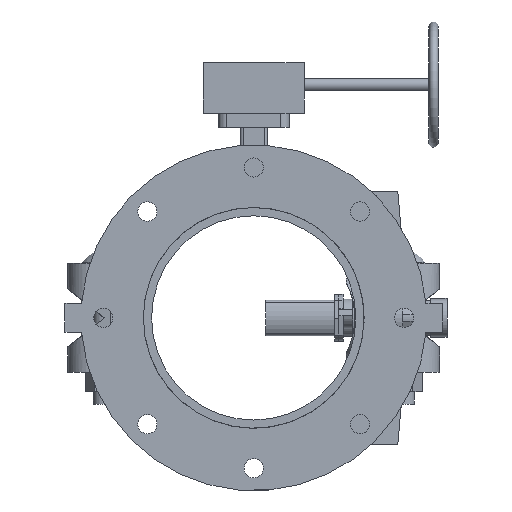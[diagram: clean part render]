
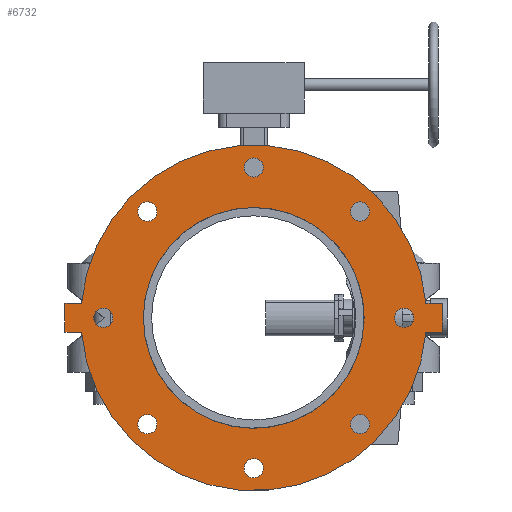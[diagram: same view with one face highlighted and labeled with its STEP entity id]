
A CAD part, front view. The second image highlights one B-rep face of the part: STEP entity #6732.
In plain terms, the highlighted planar face has unit normal (0, -1, 0) as drawn and (0, 0, -1) by its records, which use the part's own axes.
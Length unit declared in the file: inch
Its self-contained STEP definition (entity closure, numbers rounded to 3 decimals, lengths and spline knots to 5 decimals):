
#174=FACE_BOUND('',#852,.T.);
#175=FACE_BOUND('',#853,.T.);
#176=FACE_BOUND('',#854,.T.);
#177=FACE_BOUND('',#855,.T.);
#178=FACE_BOUND('',#856,.T.);
#179=FACE_BOUND('',#857,.T.);
#180=FACE_BOUND('',#858,.T.);
#181=FACE_BOUND('',#859,.T.);
#182=FACE_BOUND('',#860,.T.);
#255=PLANE('',#7294);
#484=FACE_OUTER_BOUND('',#851,.T.);
#851=EDGE_LOOP('',(#4329,#4330,#4331,#4332,#4333,#4334,#4335,#4336));
#852=EDGE_LOOP('',(#4337));
#853=EDGE_LOOP('',(#4338));
#854=EDGE_LOOP('',(#4339));
#855=EDGE_LOOP('',(#4340));
#856=EDGE_LOOP('',(#4341));
#857=EDGE_LOOP('',(#4342));
#858=EDGE_LOOP('',(#4343));
#859=EDGE_LOOP('',(#4344));
#860=EDGE_LOOP('',(#4345,#4346));
#1299=LINE('',#10170,#1809);
#1300=LINE('',#10172,#1810);
#1301=LINE('',#10174,#1811);
#1302=LINE('',#10178,#1812);
#1303=LINE('',#10180,#1813);
#1304=LINE('',#10181,#1814);
#1809=VECTOR('',#8111,0.3937);
#1810=VECTOR('',#8112,0.3937);
#1811=VECTOR('',#8113,0.3937);
#1812=VECTOR('',#8116,0.3937);
#1813=VECTOR('',#8117,0.3937);
#1814=VECTOR('',#8118,0.3937);
#2312=CIRCLE('',#7272,0.375);
#2314=CIRCLE('',#7275,0.375);
#2316=CIRCLE('',#7278,0.375);
#2318=CIRCLE('',#7281,0.375);
#2320=CIRCLE('',#7284,0.375);
#2322=CIRCLE('',#7287,0.375);
#2324=CIRCLE('',#7290,0.375);
#2326=CIRCLE('',#7293,0.375);
#2327=CIRCLE('',#7295,6.75);
#2328=CIRCLE('',#7296,6.75);
#2329=CIRCLE('',#7297,4.3125);
#2330=CIRCLE('',#7298,4.3125);
#2684=VERTEX_POINT('',#10120);
#2686=VERTEX_POINT('',#10126);
#2688=VERTEX_POINT('',#10132);
#2690=VERTEX_POINT('',#10138);
#2692=VERTEX_POINT('',#10144);
#2694=VERTEX_POINT('',#10150);
#2696=VERTEX_POINT('',#10156);
#2698=VERTEX_POINT('',#10162);
#2699=VERTEX_POINT('',#10166);
#2700=VERTEX_POINT('',#10167);
#2701=VERTEX_POINT('',#10169);
#2702=VERTEX_POINT('',#10171);
#2703=VERTEX_POINT('',#10173);
#2704=VERTEX_POINT('',#10175);
#2705=VERTEX_POINT('',#10177);
#2706=VERTEX_POINT('',#10179);
#2707=VERTEX_POINT('',#10182);
#2708=VERTEX_POINT('',#10183);
#3333=EDGE_CURVE('',#2684,#2684,#2312,.T.);
#3336=EDGE_CURVE('',#2686,#2686,#2314,.T.);
#3339=EDGE_CURVE('',#2688,#2688,#2316,.T.);
#3342=EDGE_CURVE('',#2690,#2690,#2318,.T.);
#3345=EDGE_CURVE('',#2692,#2692,#2320,.T.);
#3348=EDGE_CURVE('',#2694,#2694,#2322,.T.);
#3351=EDGE_CURVE('',#2696,#2696,#2324,.T.);
#3354=EDGE_CURVE('',#2698,#2698,#2326,.T.);
#3355=EDGE_CURVE('',#2699,#2700,#2327,.T.);
#3356=EDGE_CURVE('',#2700,#2701,#1299,.T.);
#3357=EDGE_CURVE('',#2701,#2702,#1300,.T.);
#3358=EDGE_CURVE('',#2702,#2703,#1301,.T.);
#3359=EDGE_CURVE('',#2703,#2704,#2328,.T.);
#3360=EDGE_CURVE('',#2704,#2705,#1302,.T.);
#3361=EDGE_CURVE('',#2705,#2706,#1303,.T.);
#3362=EDGE_CURVE('',#2706,#2699,#1304,.T.);
#3363=EDGE_CURVE('',#2707,#2708,#2329,.T.);
#3364=EDGE_CURVE('',#2708,#2707,#2330,.T.);
#4329=ORIENTED_EDGE('',*,*,#3355,.T.);
#4330=ORIENTED_EDGE('',*,*,#3356,.T.);
#4331=ORIENTED_EDGE('',*,*,#3357,.T.);
#4332=ORIENTED_EDGE('',*,*,#3358,.T.);
#4333=ORIENTED_EDGE('',*,*,#3359,.T.);
#4334=ORIENTED_EDGE('',*,*,#3360,.T.);
#4335=ORIENTED_EDGE('',*,*,#3361,.T.);
#4336=ORIENTED_EDGE('',*,*,#3362,.T.);
#4337=ORIENTED_EDGE('',*,*,#3333,.T.);
#4338=ORIENTED_EDGE('',*,*,#3336,.T.);
#4339=ORIENTED_EDGE('',*,*,#3339,.T.);
#4340=ORIENTED_EDGE('',*,*,#3342,.T.);
#4341=ORIENTED_EDGE('',*,*,#3345,.T.);
#4342=ORIENTED_EDGE('',*,*,#3348,.T.);
#4343=ORIENTED_EDGE('',*,*,#3351,.T.);
#4344=ORIENTED_EDGE('',*,*,#3354,.T.);
#4345=ORIENTED_EDGE('',*,*,#3363,.T.);
#4346=ORIENTED_EDGE('',*,*,#3364,.T.);
#6732=ADVANCED_FACE('',(#484,#174,#175,#176,#177,#178,#179,#180,#181,#182),
#255,.T.);
#7272=AXIS2_PLACEMENT_3D('',#10122,#8056,#8057);
#7275=AXIS2_PLACEMENT_3D('',#10128,#8063,#8064);
#7278=AXIS2_PLACEMENT_3D('',#10134,#8070,#8071);
#7281=AXIS2_PLACEMENT_3D('',#10140,#8077,#8078);
#7284=AXIS2_PLACEMENT_3D('',#10146,#8084,#8085);
#7287=AXIS2_PLACEMENT_3D('',#10152,#8091,#8092);
#7290=AXIS2_PLACEMENT_3D('',#10158,#8098,#8099);
#7293=AXIS2_PLACEMENT_3D('',#10164,#8105,#8106);
#7294=AXIS2_PLACEMENT_3D('',#10165,#8107,#8108);
#7295=AXIS2_PLACEMENT_3D('',#10168,#8109,#8110);
#7296=AXIS2_PLACEMENT_3D('',#10176,#8114,#8115);
#7297=AXIS2_PLACEMENT_3D('',#10184,#8119,#8120);
#7298=AXIS2_PLACEMENT_3D('',#10185,#8121,#8122);
#8056=DIRECTION('center_axis',(0.,0.,1.));
#8057=DIRECTION('ref_axis',(-0.707,0.707,0.));
#8063=DIRECTION('center_axis',(0.,0.,1.));
#8064=DIRECTION('ref_axis',(0.,1.,0.));
#8070=DIRECTION('center_axis',(0.,0.,1.));
#8071=DIRECTION('ref_axis',(0.707,0.707,0.));
#8077=DIRECTION('center_axis',(0.,0.,1.));
#8078=DIRECTION('ref_axis',(1.,0.,0.));
#8084=DIRECTION('center_axis',(0.,0.,1.));
#8085=DIRECTION('ref_axis',(0.707,-0.707,0.));
#8091=DIRECTION('center_axis',(0.,0.,1.));
#8092=DIRECTION('ref_axis',(0.,-1.,0.));
#8098=DIRECTION('center_axis',(0.,0.,1.));
#8099=DIRECTION('ref_axis',(-0.707,-0.707,0.));
#8105=DIRECTION('center_axis',(0.,0.,1.));
#8106=DIRECTION('ref_axis',(-1.,0.,0.));
#8107=DIRECTION('center_axis',(0.,0.,-1.));
#8108=DIRECTION('ref_axis',(-1.,0.,0.));
#8109=DIRECTION('center_axis',(0.,0.,-1.));
#8110=DIRECTION('ref_axis',(-1.,0.,0.));
#8111=DIRECTION('',(0.,1.,0.));
#8112=DIRECTION('',(1.,0.,0.));
#8113=DIRECTION('',(0.,-1.,0.));
#8114=DIRECTION('center_axis',(0.,0.,-1.));
#8115=DIRECTION('ref_axis',(-1.,0.,0.));
#8116=DIRECTION('',(0.,-1.,0.));
#8117=DIRECTION('',(-1.,0.,0.));
#8118=DIRECTION('',(0.,1.,0.));
#8119=DIRECTION('center_axis',(0.,0.,1.));
#8120=DIRECTION('ref_axis',(-1.,0.,0.));
#8121=DIRECTION('center_axis',(0.,0.,1.));
#8122=DIRECTION('ref_axis',(-1.,0.,0.));
#10120=CARTESIAN_POINT('',(-3.88909,3.88909,-0.565));
#10122=CARTESIAN_POINT('Origin',(-4.15425,4.15425,-0.565));
#10126=CARTESIAN_POINT('',(0.,5.5,-0.565));
#10128=CARTESIAN_POINT('Origin',(0.,5.875,-0.565));
#10132=CARTESIAN_POINT('',(3.88909,3.88909,-0.565));
#10134=CARTESIAN_POINT('Origin',(4.15425,4.15425,-0.565));
#10138=CARTESIAN_POINT('',(5.5,0.,-0.565));
#10140=CARTESIAN_POINT('Origin',(5.875,0.,-0.565));
#10144=CARTESIAN_POINT('',(3.88909,-3.88909,-0.565));
#10146=CARTESIAN_POINT('Origin',(4.15425,-4.15425,-0.565));
#10150=CARTESIAN_POINT('',(0.,-5.5,-0.565));
#10152=CARTESIAN_POINT('Origin',(0.,-5.875,-0.565));
#10156=CARTESIAN_POINT('',(-3.88909,-3.88909,-0.565));
#10158=CARTESIAN_POINT('Origin',(-4.15425,-4.15425,-0.565));
#10162=CARTESIAN_POINT('',(-5.5,0.,-0.565));
#10164=CARTESIAN_POINT('Origin',(-5.875,0.,-0.565));
#10165=CARTESIAN_POINT('Origin',(0.,0.,-0.565));
#10166=CARTESIAN_POINT('',(-0.565,-6.72631,-0.565));
#10167=CARTESIAN_POINT('',(-0.565,6.72631,-0.565));
#10168=CARTESIAN_POINT('Origin',(0.,0.,-0.565));
#10169=CARTESIAN_POINT('',(-0.565,7.375,-0.565));
#10170=CARTESIAN_POINT('',(-0.565,-7.375,-0.565));
#10171=CARTESIAN_POINT('',(0.565,7.375,-0.565));
#10172=CARTESIAN_POINT('',(-0.565,7.375,-0.565));
#10173=CARTESIAN_POINT('',(0.565,6.72631,-0.565));
#10174=CARTESIAN_POINT('',(0.565,7.375,-0.565));
#10175=CARTESIAN_POINT('',(0.565,-6.72631,-0.565));
#10176=CARTESIAN_POINT('Origin',(0.,0.,-0.565));
#10177=CARTESIAN_POINT('',(0.565,-7.375,-0.565));
#10178=CARTESIAN_POINT('',(0.565,7.375,-0.565));
#10179=CARTESIAN_POINT('',(-0.565,-7.375,-0.565));
#10180=CARTESIAN_POINT('',(0.565,-7.375,-0.565));
#10181=CARTESIAN_POINT('',(-0.565,-7.375,-0.565));
#10182=CARTESIAN_POINT('',(0.565,4.27533,-0.565));
#10183=CARTESIAN_POINT('',(4.3125,0.,-0.565));
#10184=CARTESIAN_POINT('Origin',(0.,0.,-0.565));
#10185=CARTESIAN_POINT('Origin',(0.,0.,-0.565));
